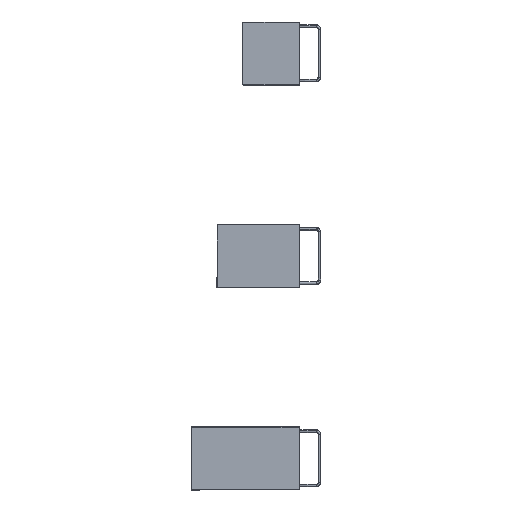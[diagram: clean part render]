
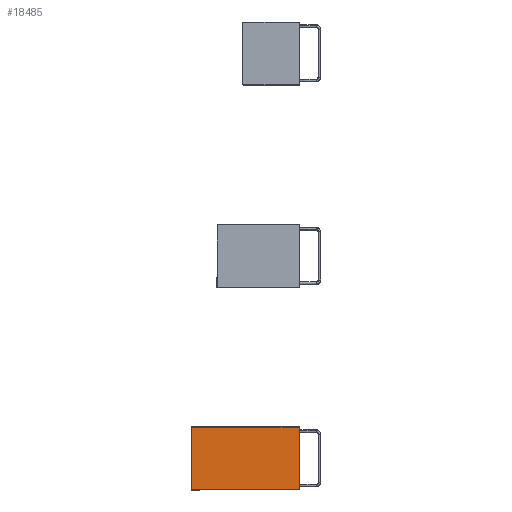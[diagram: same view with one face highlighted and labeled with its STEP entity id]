
A CAD part, left-side view. The second image highlights one B-rep face of the part: STEP entity #18485.
In plain terms, the highlighted planar face has unit normal (-1, 0, 0).
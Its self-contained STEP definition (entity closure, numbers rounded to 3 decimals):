
#492=PLANE('',#19916);
#1505=FACE_OUTER_BOUND('',#2700,.T.);
#2700=EDGE_LOOP('',(#13541,#13542,#13543,#13544));
#4176=LINE('',#29025,#5839);
#4177=LINE('',#29027,#5840);
#4178=LINE('',#29029,#5841);
#4179=LINE('',#29030,#5842);
#5839=VECTOR('',#22730,1065.);
#5840=VECTOR('',#22731,620.);
#5841=VECTOR('',#22732,1065.);
#5842=VECTOR('',#22733,620.);
#8382=VERTEX_POINT('',#29023);
#8383=VERTEX_POINT('',#29024);
#8384=VERTEX_POINT('',#29026);
#8385=VERTEX_POINT('',#29028);
#10325=EDGE_CURVE('',#8382,#8383,#4176,.T.);
#10326=EDGE_CURVE('',#8384,#8382,#4177,.T.);
#10327=EDGE_CURVE('',#8385,#8384,#4178,.T.);
#10328=EDGE_CURVE('',#8383,#8385,#4179,.T.);
#13541=ORIENTED_EDGE('',*,*,#10325,.F.);
#13542=ORIENTED_EDGE('',*,*,#10326,.F.);
#13543=ORIENTED_EDGE('',*,*,#10327,.F.);
#13544=ORIENTED_EDGE('',*,*,#10328,.F.);
#18485=ADVANCED_FACE('',(#1505),#492,.T.);
#19916=AXIS2_PLACEMENT_3D('',#29022,#22728,#22729);
#22728=DIRECTION('center_axis',(-1.,0.,0.));
#22729=DIRECTION('ref_axis',(0.,0.,
1.));
#22730=DIRECTION('',(0.,-1.,0.));
#22731=DIRECTION('',(0.,0.,1.));
#22732=DIRECTION('',(0.,1.,0.));
#22733=DIRECTION('',(0.,0.,-1.));
#29022=CARTESIAN_POINT('Origin',(-139.908,806.396,1451.852));
#29023=CARTESIAN_POINT('',(-139.908,1871.396,1451.852));
#29024=CARTESIAN_POINT('',(-139.908,806.396,1451.852));
#29025=CARTESIAN_POINT('',(-139.908,1871.396,1451.852));
#29026=CARTESIAN_POINT('',(-139.908,1871.396,831.852));
#29027=CARTESIAN_POINT('',(-139.908,1871.396,831.852));
#29028=CARTESIAN_POINT('',(-139.908,806.396,831.852));
#29029=CARTESIAN_POINT('',(-139.908,806.396,831.852));
#29030=CARTESIAN_POINT('',(-139.908,806.396,1451.852));
